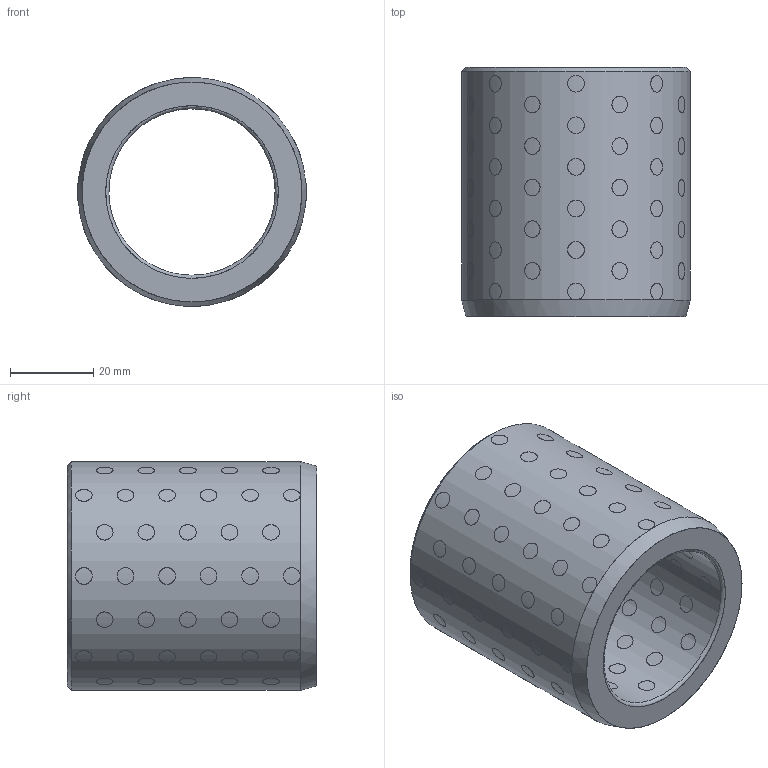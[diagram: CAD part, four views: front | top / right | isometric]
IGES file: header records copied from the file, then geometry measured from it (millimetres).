
Start section: Missler Software BP 521, 31674 Labege Cedex, France Tel   : +33 (0)5 61 00 03 00 Fax   : +33 (0)5 61 00 03 03 Email : sup.topsolid@topsolid.com
Global section: file name: D:\Cuma\18 03 2010\D30.04-2\D30.04_406055.igs; native system: TopSolid v605250 Missler Software; preprocessor: IGES preprocessor v100000; date: 030126.010735; units: millimetre
Bounding box: 55 x 60 x 55 mm (x, y, z)
Surface area: 31322.2 mm2 (no closed solid volume)
Topology: 0 solids, 0 shells, 296 faces, 5717 edges, 5520 vertices
Faces by surface type: bspline 296
